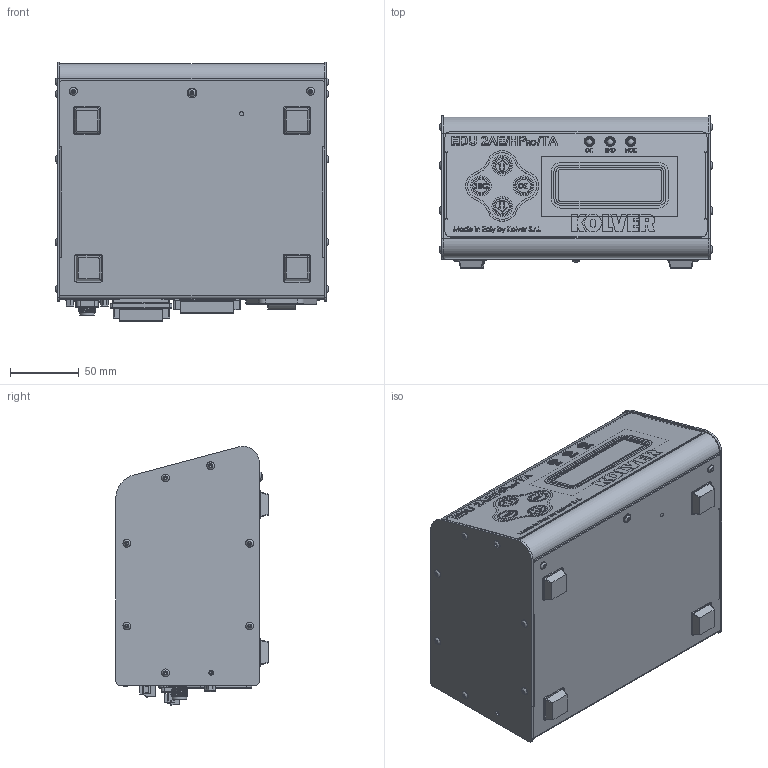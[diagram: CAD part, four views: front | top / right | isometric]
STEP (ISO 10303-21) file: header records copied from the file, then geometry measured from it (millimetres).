
FILE_DESCRIPTION (( 'STEP AP214' ), '1' );
FILE_NAME ('EDU 2AE_HP_PRO.NUOVO.STEP', '2023-07-07T11:54:38', ( '' ), ( '' ), 'SwSTEP 2.0', 'SolidWorks 2022', '' );
FILE_SCHEMA (( 'AUTOMOTIVE_DESIGN' ));
Length unit declared in the file: millimetre
Products named in the file (1): EDU 2AE_HP_PRO.NUOVO
Bounding box: 198.3 x 110.4 x 187.95 mm (x, y, z)
Surface area: 301618.5 mm2 (no closed solid volume)
Topology: 0 solids, 244 shells, 2230 faces, 12340 edges, 10026 vertices
Faces by surface type: plane 1379, cylinder 448, bspline 276, cone 71, sphere 33, torus 23
Full cylindrical faces by diameter (mm): 0.8 x3, 1 x17, 1.6 x2, 1.9 x2, 2.5 x3, 2.8 x2, 2.9 x18, 3 x2, 3.4 x1, 3.5 x1, 3.9 x4, 4.5 x2, 5 x3, 5.5 x2, 5.7 x25, 6 x5, 6.5 x3, 7 x1, 7.5 x3, 8.3 x1, 9.4 x1, 9.5 x1, 12 x4, 13 x4, 15 x4
Entity records: 185756 total; most frequent: CARTESIAN_POINT 75166, ORIENTED_EDGE 15586, DIRECTION 14577, EDGE_CURVE 12057, VERTEX_POINT 9941, VECTOR 7507, LINE 7507, AXIS2_PLACEMENT_3D 3535
